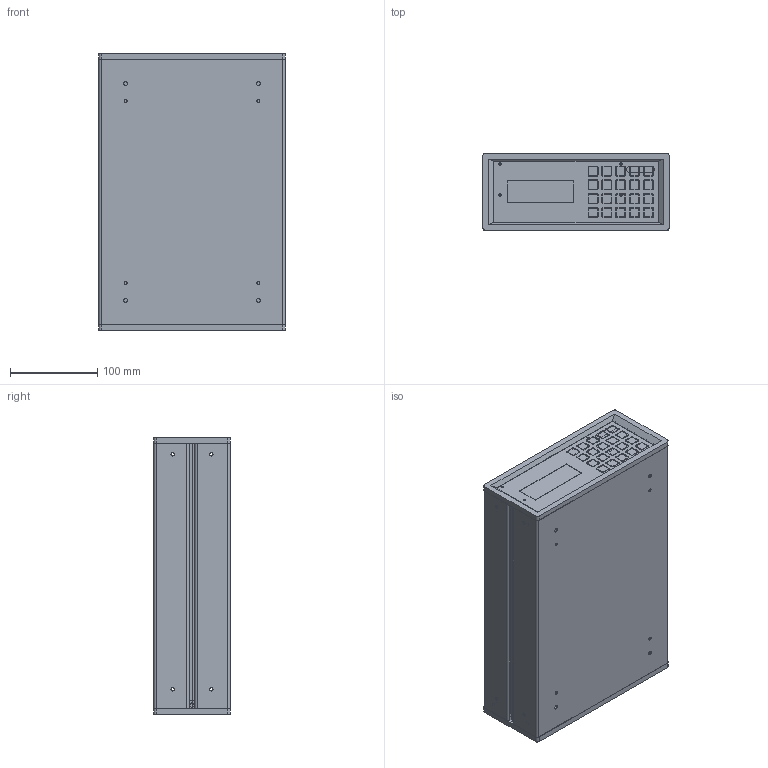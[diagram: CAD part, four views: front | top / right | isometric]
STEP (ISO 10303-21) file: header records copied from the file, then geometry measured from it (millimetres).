
FILE_DESCRIPTION (( 'STEP AP214' ), '1' );
FILE_NAME ('1218_SHELL.STEP', '2021-08-10T14:55:52', ( '' ), ( '' ), 'SwSTEP 2.0', 'SolidWorks 2020', '' );
FILE_SCHEMA (( 'AUTOMOTIVE_DESIGN' ));
Length unit declared in the file: inch
Products named in the file (10): REARPANEL^1218_SHELL; OVERLAY WINDOW^1218_SHELL; 1218_SHELL; 107-457; 107-453-01_NoVents_PEMS; UCHANNEL^1218_SHELL; 110-216; 107-453-01_NoVents; OVERLAY^1218_SHELL; 107-452-01_NoVents
Assembly tree (13 placements, depth 3):
  1218_SHELL
    UCHANNEL^1218_SHELL
    REARPANEL^1218_SHELL
    OVERLAY^1218_SHELL
    OVERLAY WINDOW^1218_SHELL
    107-457  x2
    107-452-01_NoVents
    107-453-01_NoVents_PEMS
      107-453-01_NoVents
    110-216  x4
Bounding box: 214.38 x 88.39 x 317.5 mm (x, y, z)
Volume: 523938.8 mm3; surface area: 686388.6 mm2
Topology: 13 solids, 13 shells, 1188 faces, 3090 edges, 2002 vertices
Faces by surface type: plane 754, cylinder 392, bspline 26, cone 16
Entity records: 30627 total; most frequent: CARTESIAN_POINT 5883, DIRECTION 5052, ORIENTED_EDGE 4972, EDGE_CURVE 2486, LINE 1710, VECTOR 1710, AXIS2_PLACEMENT_3D 1671, VERTEX_POINT 1602
